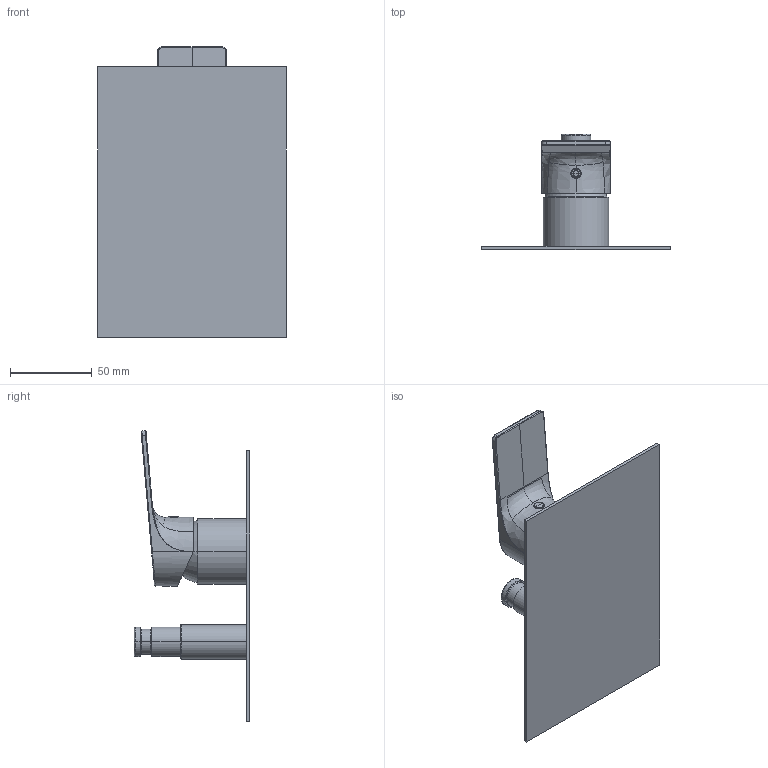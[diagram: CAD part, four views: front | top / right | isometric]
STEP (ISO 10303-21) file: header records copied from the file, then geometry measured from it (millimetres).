
FILE_DESCRIPTION((''),'2;1');
FILE_NAME('78010_SW0001','2020-05-21T10:03:25',('volponeff'),(''),'CREO PARAMETRIC BY PTC INC, 2018100','CREO PARAMETRIC BY PTC INC, 2018100','');
FILE_SCHEMA(('CONFIG_CONTROL_DESIGN'));
Length unit declared in the file: millimetre
Products named in the file (1): 78010_SW0001
Bounding box: 115 x 70.6 x 177.29 mm (x, y, z)
Volume: 114889.7 mm3; surface area: 67382.7 mm2
Topology: 2 solids, 5 shells, 254 faces, 601 edges, 360 vertices
Faces by surface type: cylinder 87, plane 64, bspline 36, cone 36, torus 19, sphere 10, extrusion 2
Entity records: 10961 total; most frequent: CARTESIAN_POINT 5298, ORIENTED_EDGE 1194, DIRECTION 1138, EDGE_CURVE 597, AXIS2_PLACEMENT_3D 447, VERTEX_POINT 360, EDGE_LOOP 271, FACE_OUTER_BOUND 254
